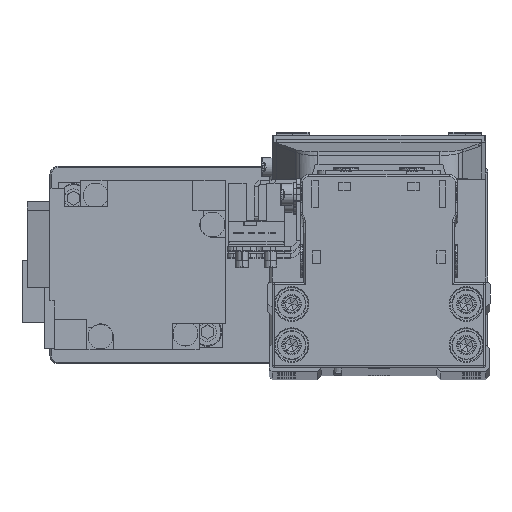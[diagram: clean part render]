
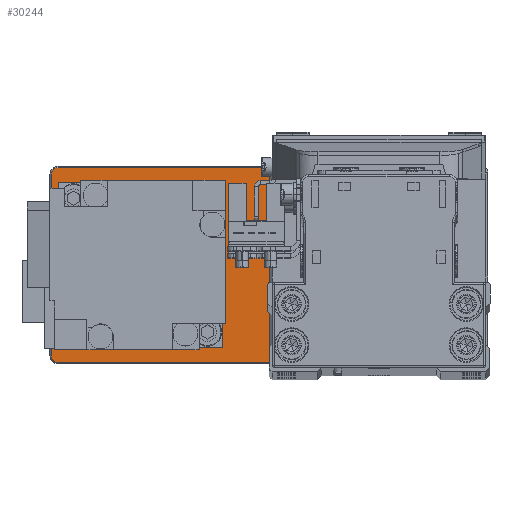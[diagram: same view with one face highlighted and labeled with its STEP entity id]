
A CAD part, top view. The second image highlights one B-rep face of the part: STEP entity #30244.
In plain terms, the highlighted planar face has unit normal (0, 0, 1).
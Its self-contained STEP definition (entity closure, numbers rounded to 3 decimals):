
#37 = EDGE_LOOP ( 'NONE', ( #33565, #2070, #35705, #2975, #9357, #14773, #40081, #7170 ) ) ;
#289 = ORIENTED_EDGE ( 'NONE', *, *, #33215, .T. ) ;
#544 = DIRECTION ( 'NONE',  ( 1., 0., 0. ) ) ;
#790 = CARTESIAN_POINT ( 'NONE',  ( 17.2, 0., 5. ) ) ;
#1040 = DIRECTION ( 'NONE',  ( 0., 0., 1. ) ) ;
#2070 = ORIENTED_EDGE ( 'NONE', *, *, #18726, .T. ) ;
#2448 = DIRECTION ( 'NONE',  ( 0., 0., -1. ) ) ;
#2581 = EDGE_LOOP ( 'NONE', ( #23172, #289 ) ) ;
#2975 = ORIENTED_EDGE ( 'NONE', *, *, #19598, .T. ) ;
#3250 = CIRCLE ( 'NONE', #26389, 1.7 ) ;
#4155 = FACE_OUTER_BOUND ( 'NONE', #37, .T. ) ;
#4459 = CARTESIAN_POINT ( 'NONE',  ( -51.7, 22., 5. ) ) ;
#5291 = CARTESIAN_POINT ( 'NONE',  ( 50., -23.7, 5. ) ) ;
#5384 = CIRCLE ( 'NONE', #28537, 10.3 ) ;
#5427 = ORIENTED_EDGE ( 'NONE', *, *, #22155, .T. ) ;
#6520 = CIRCLE ( 'NONE', #29659, 1.7 ) ;
#7141 = CARTESIAN_POINT ( 'NONE',  ( -50., 23.7, 5. ) ) ;
#7170 = ORIENTED_EDGE ( 'NONE', *, *, #33093, .T. ) ;
#7286 = VERTEX_POINT ( 'NONE', #36745 ) ;
#7366 = AXIS2_PLACEMENT_3D ( 'NONE', #14322, #26933, #39563 ) ;
#7741 = EDGE_CURVE ( 'NONE', #31550, #7286, #36477, .T. ) ;
#7978 = DIRECTION ( 'NONE',  ( 1., 0., 0. ) ) ;
#8098 = DIRECTION ( 'NONE',  ( 0., -1., 0. ) ) ;
#8995 = LINE ( 'NONE', #21609, #24677 ) ;
#9024 = DIRECTION ( 'NONE',  ( 0., 1., 0. ) ) ;
#9222 = CARTESIAN_POINT ( 'NONE',  ( 50., 23.7, 5. ) ) ;
#9357 = ORIENTED_EDGE ( 'NONE', *, *, #36237, .T. ) ;
#9773 = AXIS2_PLACEMENT_3D ( 'NONE', #16291, #28914, #544 ) ;
#10112 = CIRCLE ( 'NONE', #15390, 12.8 ) ;
#10712 = DIRECTION ( 'NONE',  ( 1., 0., 0. ) ) ;
#10745 = CARTESIAN_POINT ( 'NONE',  ( -51.7, -22., 5. ) ) ;
#11379 = DIRECTION ( 'NONE',  ( 0., 0., 1. ) ) ;
#11624 = DIRECTION ( 'NONE',  ( 0., 0., 1. ) ) ;
#12524 = VERTEX_POINT ( 'NONE', #4459 ) ;
#13077 = CARTESIAN_POINT ( 'NONE',  ( -50., -23.7, 5. ) ) ;
#13662 = DIRECTION ( 'NONE',  ( 1., 0., 0. ) ) ;
#14322 = CARTESIAN_POINT ( 'NONE',  ( 30., 0., 5. ) ) ;
#14330 = VECTOR ( 'NONE', #9024, 1000. ) ;
#14773 = ORIENTED_EDGE ( 'NONE', *, *, #27832, .T. ) ;
#15069 = DIRECTION ( 'NONE',  ( 1., 0., 0. ) ) ;
#15237 = CARTESIAN_POINT ( 'NONE',  ( -28., 0., 5. ) ) ;
#15390 = AXIS2_PLACEMENT_3D ( 'NONE', #23703, #36328, #7978 ) ;
#16291 = CARTESIAN_POINT ( 'NONE',  ( 50., -22., 5. ) ) ;
#16782 = PLANE ( 'NONE',  #25294 ) ;
#16940 = ORIENTED_EDGE ( 'NONE', *, *, #32717, .T. ) ;
#17616 = EDGE_CURVE ( 'NONE', #33446, #26815, #24767, .T. ) ;
#17633 = CARTESIAN_POINT ( 'NONE',  ( 42.8, 0., 5. ) ) ;
#18624 = AXIS2_PLACEMENT_3D ( 'NONE', #15237, #27875, #40517 ) ;
#18726 = EDGE_CURVE ( 'NONE', #18904, #33446, #27617, .T. ) ;
#18895 = CARTESIAN_POINT ( 'NONE',  ( 50., 22., 5. ) ) ;
#18904 = VERTEX_POINT ( 'NONE', #5291 ) ;
#19413 = CARTESIAN_POINT ( 'NONE',  ( -17.7, 0., 5. ) ) ;
#19598 = EDGE_CURVE ( 'NONE', #26815, #28094, #6520, .T. ) ;
#19757 = DIRECTION ( 'NONE',  ( -1., 0., 0. ) ) ;
#19873 = FACE_BOUND ( 'NONE', #31733, .T. ) ;
#19943 = AXIS2_PLACEMENT_3D ( 'NONE', #39732, #11379, #24019 ) ;
#21225 = VECTOR ( 'NONE', #19757, 1000. ) ;
#21609 = CARTESIAN_POINT ( 'NONE',  ( 50., -23.7, 5. ) ) ;
#22155 = EDGE_CURVE ( 'NONE', #22669, #34678, #10112, .T. ) ;
#22669 = VERTEX_POINT ( 'NONE', #17633 ) ;
#23172 = ORIENTED_EDGE ( 'NONE', *, *, #7741, .T. ) ;
#23703 = CARTESIAN_POINT ( 'NONE',  ( 30., 0., 5. ) ) ;
#23808 = LINE ( 'NONE', #36444, #34249 ) ;
#24019 = DIRECTION ( 'NONE',  ( 1., 0., 0. ) ) ;
#24220 = CARTESIAN_POINT ( 'NONE',  ( 51.7, 22., 5. ) ) ;
#24243 = DIRECTION ( 'NONE',  ( 1., 0., 0. ) ) ;
#24677 = VECTOR ( 'NONE', #34220, 1000. ) ;
#24767 = LINE ( 'NONE', #37382, #14330 ) ;
#25196 = CIRCLE ( 'NONE', #7366, 12.8 ) ;
#25294 = AXIS2_PLACEMENT_3D ( 'NONE', #29406, #1040, #13662 ) ;
#26389 = AXIS2_PLACEMENT_3D ( 'NONE', #26422, #39060, #10712 ) ;
#26422 = CARTESIAN_POINT ( 'NONE',  ( -50., 22., 5. ) ) ;
#26761 = EDGE_CURVE ( 'NONE', #12524, #38764, #23808, .T. ) ;
#26815 = VERTEX_POINT ( 'NONE', #24220 ) ;
#26933 = DIRECTION ( 'NONE',  ( 0., 0., -1. ) ) ;
#27617 = CIRCLE ( 'NONE', #9773, 1.7 ) ;
#27832 = EDGE_CURVE ( 'NONE', #36803, #12524, #3250, .T. ) ;
#27875 = DIRECTION ( 'NONE',  ( 0., 0., -1. ) ) ;
#28094 = VERTEX_POINT ( 'NONE', #9222 ) ;
#28537 = AXIS2_PLACEMENT_3D ( 'NONE', #30823, #2448, #15069 ) ;
#28914 = DIRECTION ( 'NONE',  ( 0., 0., 1. ) ) ;
#29406 = CARTESIAN_POINT ( 'NONE',  ( 0., 0., 5. ) ) ;
#29659 = AXIS2_PLACEMENT_3D ( 'NONE', #18895, #11624, #24243 ) ;
#30244 = ADVANCED_FACE ( 'NONE', ( #19873, #32502, #4155 ), #16782, .T. ) ;
#30468 = CARTESIAN_POINT ( 'NONE',  ( -50., 23.7, 5. ) ) ;
#30823 = CARTESIAN_POINT ( 'NONE',  ( -28., 0., 5. ) ) ;
#30855 = EDGE_CURVE ( 'NONE', #39793, #18904, #8995, .T. ) ;
#31550 = VERTEX_POINT ( 'NONE', #19413 ) ;
#31733 = EDGE_LOOP ( 'NONE', ( #5427, #16940 ) ) ;
#32502 = FACE_BOUND ( 'NONE', #2581, .T. ) ;
#32717 = EDGE_CURVE ( 'NONE', #34678, #22669, #25196, .T. ) ;
#33093 = EDGE_CURVE ( 'NONE', #38764, #39793, #37787, .T. ) ;
#33215 = EDGE_CURVE ( 'NONE', #7286, #31550, #5384, .T. ) ;
#33446 = VERTEX_POINT ( 'NONE', #36316 ) ;
#33565 = ORIENTED_EDGE ( 'NONE', *, *, #30855, .T. ) ;
#34220 = DIRECTION ( 'NONE',  ( 1., 0., 0. ) ) ;
#34249 = VECTOR ( 'NONE', #8098, 1000. ) ;
#34678 = VERTEX_POINT ( 'NONE', #790 ) ;
#35500 = LINE ( 'NONE', #7141, #21225 ) ;
#35705 = ORIENTED_EDGE ( 'NONE', *, *, #17616, .T. ) ;
#36237 = EDGE_CURVE ( 'NONE', #28094, #36803, #35500, .T. ) ;
#36316 = CARTESIAN_POINT ( 'NONE',  ( 51.7, -22., 5. ) ) ;
#36328 = DIRECTION ( 'NONE',  ( 0., 0., -1. ) ) ;
#36444 = CARTESIAN_POINT ( 'NONE',  ( -51.7, -22., 5. ) ) ;
#36477 = CIRCLE ( 'NONE', #18624, 10.3 ) ;
#36745 = CARTESIAN_POINT ( 'NONE',  ( -38.3, 0., 5. ) ) ;
#36803 = VERTEX_POINT ( 'NONE', #30468 ) ;
#37382 = CARTESIAN_POINT ( 'NONE',  ( 51.7, 22., 5. ) ) ;
#37787 = CIRCLE ( 'NONE', #19943, 1.7 ) ;
#38764 = VERTEX_POINT ( 'NONE', #10745 ) ;
#39060 = DIRECTION ( 'NONE',  ( 0., 0., 1. ) ) ;
#39563 = DIRECTION ( 'NONE',  ( 1., 0., 0. ) ) ;
#39732 = CARTESIAN_POINT ( 'NONE',  ( -50., -22., 5. ) ) ;
#39793 = VERTEX_POINT ( 'NONE', #13077 ) ;
#40081 = ORIENTED_EDGE ( 'NONE', *, *, #26761, .T. ) ;
#40517 = DIRECTION ( 'NONE',  ( 1., 0., 0. ) ) ;
